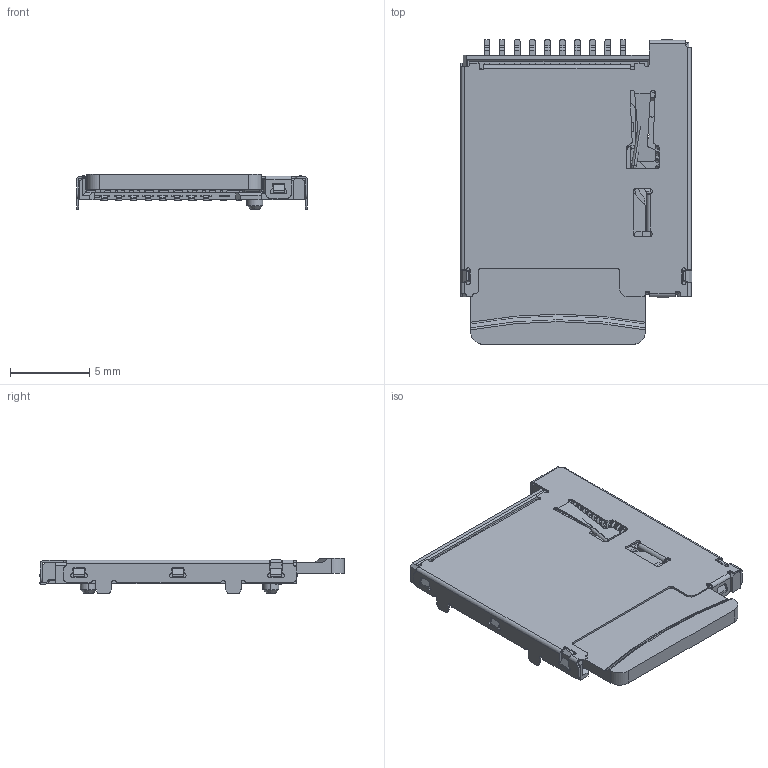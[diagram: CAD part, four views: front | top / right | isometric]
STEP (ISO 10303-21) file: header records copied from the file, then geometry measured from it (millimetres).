
FILE_DESCRIPTION((''),'2;1');
FILE_NAME('MICRO_SD4_0_H1_50_ASM','2024-07-08T10:46:06',('Administrator'),(''),'CREO PARAMETRIC BY PTC INC, 2020053','CREO PARAMETRIC BY PTC INC, 2020053','');
FILE_SCHEMA(('AUTOMOTIVE_DESIGN { 1 0 10303 214 1 1 1 1 }'));
Products named in the file (17): TAN; SDCONTACT_SOLID_4; SDCONTACT_SOLID_2; SD_MODLING_SOLID_2; SDCONTACT_SOLID_8; SDCONTACT_SOLID_1; MICRO-CARD; SDCONTACT_SOLID_5; SDCONTACT_SOLID_3; SDCONTACT_SOLID_7; SD_SHELL; SD_MODLING_SOLID_1; LINK; SDCONTACT_SOLID_6; SD_HUA; MICRO_SD4_0_H1_50_1_ASM; MICRO_SD4_0_H1_50_ASM
Assembly tree (16 placements, depth 3):
  MICRO_SD4_0_H1_50_ASM
    MICRO_SD4_0_H1_50_1_ASM
      TAN
      SDCONTACT_SOLID_4
      SDCONTACT_SOLID_2
      SD_MODLING_SOLID_2
      SDCONTACT_SOLID_8
      SDCONTACT_SOLID_1
      MICRO-CARD
      SDCONTACT_SOLID_5
      SDCONTACT_SOLID_3
      SDCONTACT_SOLID_7
      SD_SHELL
      SD_MODLING_SOLID_1
      LINK
      SDCONTACT_SOLID_6
      SD_HUA
Bounding box: 14.6 x 19.2 x 2.25 mm (x, y, z)
Volume: 236.9 mm3; surface area: 1587 mm2
Topology: 15 solids, 15 shells, 1961 faces, 5662 edges, 3742 vertices
Faces by surface type: plane 1132, cylinder 697, cone 79, torus 30, bspline 23
Entity records: 72534 total; most frequent: CARTESIAN_POINT 19022, ORIENTED_EDGE 11324, DIRECTION 10893, EDGE_CURVE 5662, VECTOR 3843, LINE 3843, VERTEX_POINT 3742, AXIS2_PLACEMENT_3D 3525
